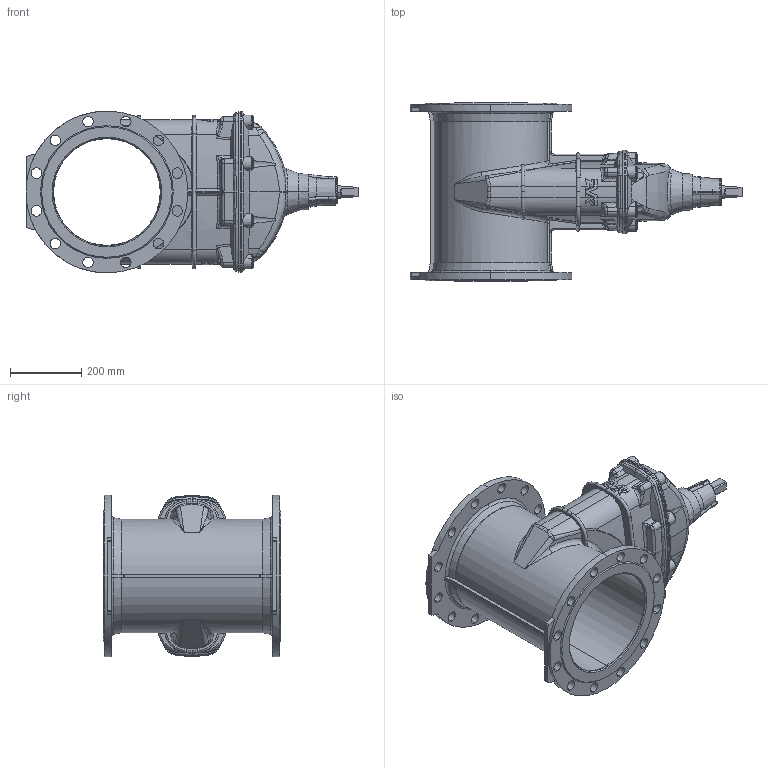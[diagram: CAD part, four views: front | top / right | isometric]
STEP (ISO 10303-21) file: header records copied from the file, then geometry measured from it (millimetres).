
FILE_DESCRIPTION (( 'STEP AP203' ), '1' );
FILE_NAME ('O_02_XX_DN300_Gate Valve_PN16_REV02.step', '2021-01-11T10:57:03', ( '' ), ( '' ), 'SwSTEP 2.0', 'SolidWorks 2019', '' );
FILE_SCHEMA (( 'CONFIG_CONTROL_DESIGN' ));
Length unit declared in the file: millimetre
Products named in the file (1): O_02_XX_DN300_Gate Valve_PN16_REV02
Bounding box: 933.55 x 500 x 455 mm (x, y, z)
Volume: 33049486.8 mm3; surface area: 1895525.1 mm2
Topology: 1 solids, 1 shells, 1000 faces, 2613 edges, 1611 vertices
Faces by surface type: cylinder 321, bspline 242, plane 215, cone 142, torus 80
Entity records: 43000 total; most frequent: CARTESIAN_POINT 21289, ORIENTED_EDGE 5186, DIRECTION 3773, EDGE_CURVE 2593, VERTEX_POINT 1611, AXIS2_PLACEMENT_3D 1533, EDGE_LOOP 1066, FACE_OUTER_BOUND 1000
